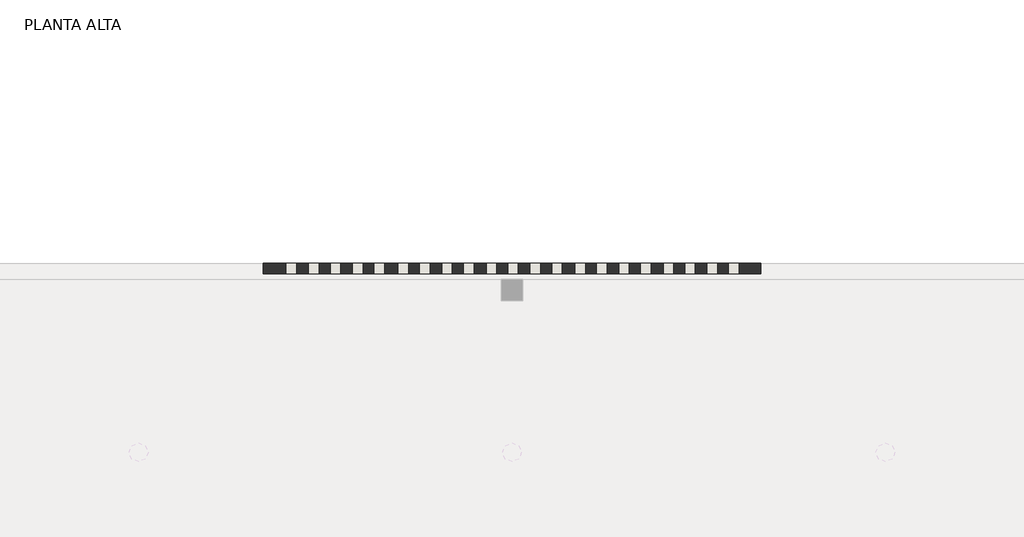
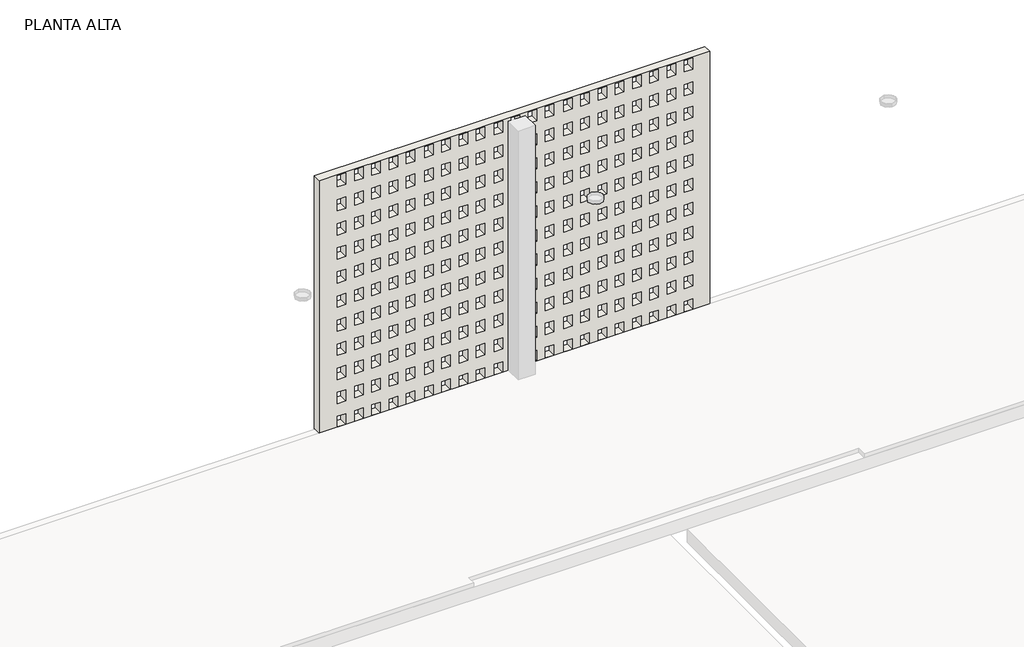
# One storey, part 3 of 14: 1 wall.
"""IFC4 building model written with IfcOpenShell, lengths in millimetres."""

from ifc_helpers import new_model, si_unit, frame, origin, place, context, project, spatial, polyline, outline, extrude, element, save

model = new_model("IFC4")

# Units and contexts
model_context = context("Model", 3, world=origin())
ifc_project = project(units=[si_unit("LENGTHUNIT", "METRE", prefix="MILLI")], contexts=[model_context])

# Site, building, storey
site = spatial("IfcSite", under=ifc_project)
building = spatial("IfcBuilding", under=site)
storey = spatial("IfcBuildingStorey", under=building, Name="PLANTA ALTA", Elevation=3310.0)

# Wall
placement = place(None, origin())
element("IfcWall", 1, ObjectType="MURO-Ladrillo hormigón calado-10cm-PET", at=placement, inside=storey, context=model_context, shape_type="SweptSolid", body=[
    extrude(outline(polyline([(3260.0, 19388.7173694), (6410.0, 19388.7173694), (6410.0, 14788.7173693), (3260.0, 14788.7173693), (3260.0, 19388.7173694)]), holes=[polyline([(6400.0, 19088.7173693), (6400.0, 19188.7173695), (6260.0, 19188.7173695), (6260.0, 19088.7173693), (6400.0, 19088.7173693)]), polyline([(6400.0, 18888.717369), (6400.0, 18988.7173693), (6260.0, 18988.7173693), (6260.0, 18888.717369), (6400.0, 18888.717369)]), polyline([(6400.0, 18683.717369), (6400.0, 18783.7173693), (6260.0, 18783.7173693), (6260.0, 18683.717369), (6400.0, 18683.717369)]), polyline([(6400.0, 18483.7173688), (6400.0, 18583.717369), (6260.0, 18583.717369), (6260.0, 18483.7173688), (6400.0, 18483.7173688)]), polyline([(6400.0, 18273.717369), (6400.0, 18373.7173693), (6260.0, 18373.7173693), (6260.0, 18273.717369), (6400.0, 18273.717369)]), polyline([(6400.0, 18073.7173688), (6400.0, 18173.717369), (6260.0, 18173.717369), (6260.0, 18073.7173688), (6400.0, 18073.7173688)]), polyline([(6400.0, 17868.7173688), (6400.0, 17968.7173691), (6260.0, 17968.7173691), (6260.0, 17868.7173688), (6400.0, 17868.7173688)]), polyline([(6400.0, 17668.7173686), (6400.0, 17768.7173688), (6260.0, 17768.7173688), (6260.0, 17668.7173686), (6400.0, 17668.7173686)]), polyline([(6400.0, 17453.7173691), (6400.0, 17553.7173693), (6260.0, 17553.7173693), (6260.0, 17453.7173691), (6400.0, 17453.7173691)]), polyline([(6400.0, 17253.7173688), (6400.0, 17353.7173691), (6260.0, 17353.7173691), (6260.0, 17253.7173688), (6400.0, 17253.7173688)]), polyline([(6400.0, 17048.7173688), (6400.0, 17148.7173691), (6260.0, 17148.7173691), (6260.0, 17048.7173688), (6400.0, 17048.7173688)]), polyline([(6400.0, 16848.7173686), (6400.0, 16948.7173689), (6260.0, 16948.7173689), (6260.0, 16848.7173686), (6400.0, 16848.7173686)]), polyline([(6400.0, 16638.7173689), (6400.0, 16738.7173691), (6260.0, 16738.7173691), (6260.0, 16638.7173689), (6400.0, 16638.7173689)]), polyline([(6400.0, 16438.7173686), (6400.0, 16538.7173689), (6260.0, 16538.7173689), (6260.0, 16438.7173686), (6400.0, 16438.7173686)]), polyline([(6400.0, 16233.7173686), (6400.0, 16333.7173689), (6260.0, 16333.7173689), (6260.0, 16233.7173686), (6400.0, 16233.7173686)]), polyline([(6400.0, 16033.7173684), (6400.0, 16133.7173686), (6260.0, 16133.7173686), (6260.0, 16033.7173684), (6400.0, 16033.7173684)]), polyline([(6400.0, 15813.7173691), (6400.0, 15913.7173693), (6260.0, 15913.7173693), (6260.0, 15813.7173691), (6400.0, 15813.7173691)]), polyline([(6400.0, 15613.7173689), (6400.0, 15713.7173691), (6260.0, 15713.7173691), (6260.0, 15613.7173689), (6400.0, 15613.7173689)]), polyline([(6400.0, 15408.7173689), (6400.0, 15508.7173691), (6260.0, 15508.7173691), (6260.0, 15408.7173689), (6400.0, 15408.7173689)]), polyline([(6400.0, 15208.7173687), (6400.0, 15308.7173689), (6260.0, 15308.7173689), (6260.0, 15208.7173687), (6400.0, 15208.7173687)]), polyline([(6400.0, 14998.7173689), (6400.0, 15098.7173691), (6260.0, 15098.7173691), (6260.0, 14998.7173689), (6400.0, 14998.7173689)]), polyline([(6100.0, 19088.7173693), (6100.0, 19188.7173695), (5960.0, 19188.7173695), (5960.0, 19088.7173693), (6100.0, 19088.7173693)]), polyline([(6100.0, 18888.717369), (6100.0, 18988.7173693), (5960.0, 18988.7173693), (5960.0, 18888.717369), (6100.0, 18888.717369)]), polyline([(6100.0, 18683.717369), (6100.0, 18783.7173693), (5960.0, 18783.7173693), (5960.0, 18683.717369), (6100.0, 18683.717369)]), polyline([(6100.0, 18483.7173688), (6100.0, 18583.717369), (5960.0, 18583.717369), (5960.0, 18483.7173688), (6100.0, 18483.7173688)]), polyline([(6100.0, 18273.717369), (6100.0, 18373.7173693), (5960.0, 18373.7173693), (5960.0, 18273.717369), (6100.0, 18273.717369)]), polyline([(6100.0, 18073.7173688), (6100.0, 18173.717369), (5960.0, 18173.717369), (5960.0, 18073.7173688), (6100.0, 18073.7173688)]), polyline([(6100.0, 17868.7173688), (6100.0, 17968.7173691), (5960.0, 17968.7173691), (5960.0, 17868.7173688), (6100.0, 17868.7173688)]), polyline([(6100.0, 17668.7173686), (6100.0, 17768.7173688), (5960.0, 17768.7173688), (5960.0, 17668.7173686), (6100.0, 17668.7173686)]), polyline([(6100.0, 17453.7173691), (6100.0, 17553.7173693), (5960.0, 17553.7173693), (5960.0, 17453.7173691), (6100.0, 17453.7173691)]), polyline([(6100.0, 17253.7173688), (6100.0, 17353.7173691), (5960.0, 17353.7173691), (5960.0, 17253.7173688), (6100.0, 17253.7173688)]), polyline([(6100.0, 17048.7173688), (6100.0, 17148.7173691), (5960.0, 17148.7173691), (5960.0, 17048.7173688), (6100.0, 17048.7173688)]), polyline([(6100.0, 16848.7173686), (6100.0, 16948.7173689), (5960.0, 16948.7173689), (5960.0, 16848.7173686), (6100.0, 16848.7173686)]), polyline([(6100.0, 16638.7173689), (6100.0, 16738.7173691), (5960.0, 16738.7173691), (5960.0, 16638.7173689), (6100.0, 16638.7173689)]), polyline([(6100.0, 16438.7173686), (6100.0, 16538.7173689), (5960.0, 16538.7173689), (5960.0, 16438.7173686), (6100.0, 16438.7173686)]), polyline([(6100.0, 16233.7173686), (6100.0, 16333.7173689), (5960.0, 16333.7173689), (5960.0, 16233.7173686), (6100.0, 16233.7173686)]), polyline([(6100.0, 16033.7173684), (6100.0, 16133.7173686), (5960.0, 16133.7173686), (5960.0, 16033.7173684), (6100.0, 16033.7173684)]), polyline([(6100.0, 15813.7173691), (6100.0, 15913.7173693), (5960.0, 15913.7173693), (5960.0, 15813.7173691), (6100.0, 15813.7173691)]), polyline([(6100.0, 15613.7173689), (6100.0, 15713.7173691), (5960.0, 15713.7173691), (5960.0, 15613.7173689), (6100.0, 15613.7173689)]), polyline([(6100.0, 15408.7173689), (6100.0, 15508.7173691), (5960.0, 15508.7173691), (5960.0, 15408.7173689), (6100.0, 15408.7173689)]), polyline([(6100.0, 15208.7173687), (6100.0, 15308.7173689), (5960.0, 15308.7173689), (5960.0, 15208.7173687), (6100.0, 15208.7173687)]), polyline([(6100.0, 14998.7173689), (6100.0, 15098.7173691), (5960.0, 15098.7173691), (5960.0, 14998.7173689), (6100.0, 14998.7173689)]), polyline([(5800.0, 19088.7173693), (5800.0, 19188.7173695), (5660.0, 19188.7173695), (5660.0, 19088.7173693), (5800.0, 19088.7173693)]), polyline([(5800.0, 18888.717369), (5800.0, 18988.7173693), (5660.0, 18988.7173693), (5660.0, 18888.717369), (5800.0, 18888.717369)]), polyline([(5800.0, 18683.717369), (5800.0, 18783.7173693), (5660.0, 18783.7173693), (5660.0, 18683.717369), (5800.0, 18683.717369)]), polyline([(5800.0, 18483.7173688), (5800.0, 18583.717369), (5660.0, 18583.717369), (5660.0, 18483.7173688), (5800.0, 18483.7173688)]), polyline([(5800.0, 18273.717369), (5800.0, 18373.7173693), (5660.0, 18373.7173693), (5660.0, 18273.717369), (5800.0, 18273.717369)]), polyline([(5800.0, 18073.7173688), (5800.0, 18173.717369), (5660.0, 18173.717369), (5660.0, 18073.7173688), (5800.0, 18073.7173688)]), polyline([(5800.0, 17868.7173688), (5800.0, 17968.7173691), (5660.0, 17968.7173691), (5660.0, 17868.7173688), (5800.0, 17868.7173688)]), polyline([(5800.0, 17668.7173686), (5800.0, 17768.7173688), (5660.0, 17768.7173688), (5660.0, 17668.7173686), (5800.0, 17668.7173686)]), polyline([(5800.0, 17453.7173691), (5800.0, 17553.7173693), (5660.0, 17553.7173693), (5660.0, 17453.7173691), (5800.0, 17453.7173691)]), polyline([(5800.0, 17253.7173688), (5800.0, 17353.7173691), (5660.0, 17353.7173691), (5660.0, 17253.7173688), (5800.0, 17253.7173688)]), polyline([(5800.0, 17048.7173688), (5800.0, 17148.7173691), (5660.0, 17148.7173691), (5660.0, 17048.7173688), (5800.0, 17048.7173688)]), polyline([(5800.0, 16848.7173686), (5800.0, 16948.7173689), (5660.0, 16948.7173689), (5660.0, 16848.7173686), (5800.0, 16848.7173686)]), polyline([(5800.0, 16638.7173689), (5800.0, 16738.7173691), (5660.0, 16738.7173691), (5660.0, 16638.7173689), (5800.0, 16638.7173689)]), polyline([(5800.0, 16438.7173686), (5800.0, 16538.7173689), (5660.0, 16538.7173689), (5660.0, 16438.7173686), (5800.0, 16438.7173686)]), polyline([(5800.0, 16233.7173686), (5800.0, 16333.7173689), (5660.0, 16333.7173689), (5660.0, 16233.7173686), (5800.0, 16233.7173686)]), polyline([(5800.0, 16033.7173684), (5800.0, 16133.7173686), (5660.0, 16133.7173686), (5660.0, 16033.7173684), (5800.0, 16033.7173684)]), polyline([(5800.0, 15813.7173691), (5800.0, 15913.7173693), (5660.0, 15913.7173693), (5660.0, 15813.7173691), (5800.0, 15813.7173691)]), polyline([(5800.0, 15613.7173689), (5800.0, 15713.7173691), (5660.0, 15713.7173691), (5660.0, 15613.7173689), (5800.0, 15613.7173689)]), polyline([(5800.0, 15408.7173689), (5800.0, 15508.7173691), (5660.0, 15508.7173691), (5660.0, 15408.7173689), (5800.0, 15408.7173689)]), polyline([(5800.0, 15208.7173687), (5800.0, 15308.7173689), (5660.0, 15308.7173689), (5660.0, 15208.7173687), (5800.0, 15208.7173687)]), polyline([(5800.0, 14998.7173689), (5800.0, 15098.7173691), (5660.0, 15098.7173691), (5660.0, 14998.7173689), (5800.0, 14998.7173689)]), polyline([(5500.0, 19088.7173693), (5500.0, 19188.7173695), (5360.0, 19188.7173695), (5360.0, 19088.7173693), (5500.0, 19088.7173693)]), polyline([(5500.0, 18888.717369), (5500.0, 18988.7173693), (5360.0, 18988.7173693), (5360.0, 18888.717369), (5500.0, 18888.717369)]), polyline([(5500.0, 18683.717369), (5500.0, 18783.7173693), (5360.0, 18783.7173693), (5360.0, 18683.717369), (5500.0, 18683.717369)]), polyline([(5500.0, 18483.7173688), (5500.0, 18583.717369), (5360.0, 18583.717369), (5360.0, 18483.7173688), (5500.0, 18483.7173688)]), polyline([(5500.0, 18273.717369), (5500.0, 18373.7173693), (5360.0, 18373.7173693), (5360.0, 18273.717369), (5500.0, 18273.717369)]), polyline([(5500.0, 18073.7173688), (5500.0, 18173.717369), (5360.0, 18173.717369), (5360.0, 18073.7173688), (5500.0, 18073.7173688)]), polyline([(5500.0, 17868.7173688), (5500.0, 17968.7173691), (5360.0, 17968.7173691), (5360.0, 17868.7173688), (5500.0, 17868.7173688)]), polyline([(5500.0, 17668.7173686), (5500.0, 17768.7173688), (5360.0, 17768.7173688), (5360.0, 17668.7173686), (5500.0, 17668.7173686)]), polyline([(5500.0, 17453.7173691), (5500.0, 17553.7173693), (5360.0, 17553.7173693), (5360.0, 17453.7173691), (5500.0, 17453.7173691)]), polyline([(5500.0, 17253.7173688), (5500.0, 17353.7173691), (5360.0, 17353.7173691), (5360.0, 17253.7173688), (5500.0, 17253.7173688)]), polyline([(5500.0, 17048.7173688), (5500.0, 17148.7173691), (5360.0, 17148.7173691), (5360.0, 17048.7173688), (5500.0, 17048.7173688)]), polyline([(5500.0, 16848.7173686), (5500.0, 16948.7173689), (5360.0, 16948.7173689), (5360.0, 16848.7173686), (5500.0, 16848.7173686)]), polyline([(5500.0, 16638.7173689), (5500.0, 16738.7173691), (5360.0, 16738.7173691), (5360.0, 16638.7173689), (5500.0, 16638.7173689)]), polyline([(5500.0, 16438.7173686), (5500.0, 16538.7173689), (5360.0, 16538.7173689), (5360.0, 16438.7173686), (5500.0, 16438.7173686)]), polyline([(5500.0, 16233.7173686), (5500.0, 16333.7173689), (5360.0, 16333.7173689), (5360.0, 16233.7173686), (5500.0, 16233.7173686)]), polyline([(5500.0, 16033.7173684), (5500.0, 16133.7173686), (5360.0, 16133.7173686), (5360.0, 16033.7173684), (5500.0, 16033.7173684)]), polyline([(5500.0, 15813.7173691), (5500.0, 15913.7173693), (5360.0, 15913.7173693), (5360.0, 15813.7173691), (5500.0, 15813.7173691)]), polyline([(5500.0, 15613.7173689), (5500.0, 15713.7173691), (5360.0, 15713.7173691), (5360.0, 15613.7173689), (5500.0, 15613.7173689)]), polyline([(5500.0, 15408.7173689), (5500.0, 15508.7173691), (5360.0, 15508.7173691), (5360.0, 15408.7173689), (5500.0, 15408.7173689)]), polyline([(5500.0, 15208.7173687), (5500.0, 15308.7173689), (5360.0, 15308.7173689), (5360.0, 15208.7173687), (5500.0, 15208.7173687)]), polyline([(5500.0, 14998.7173689), (5500.0, 15098.7173691), (5360.0, 15098.7173691), (5360.0, 14998.7173689), (5500.0, 14998.7173689)]), polyline([(5200.0, 19088.7173693), (5200.0, 19188.7173695), (5060.0, 19188.7173695), (5060.0, 19088.7173693), (5200.0, 19088.7173693)]), polyline([(5200.0, 18888.717369), (5200.0, 18988.7173693), (5060.0, 18988.7173693), (5060.0, 18888.717369), (5200.0, 18888.717369)]), polyline([(5200.0, 18683.717369), (5200.0, 18783.7173693), (5060.0, 18783.7173693), (5060.0, 18683.717369), (5200.0, 18683.717369)]), polyline([(5200.0, 18483.7173688), (5200.0, 18583.717369), (5060.0, 18583.717369), (5060.0, 18483.7173688), (5200.0, 18483.7173688)]), polyline([(5200.0, 18273.717369), (5200.0, 18373.7173693), (5060.0, 18373.7173693), (5060.0, 18273.717369), (5200.0, 18273.717369)]), polyline([(5200.0, 18073.7173688), (5200.0, 18173.717369), (5060.0, 18173.717369), (5060.0, 18073.7173688), (5200.0, 18073.7173688)]), polyline([(5200.0, 17868.7173688), (5200.0, 17968.7173691), (5060.0, 17968.7173691), (5060.0, 17868.7173688), (5200.0, 17868.7173688)]), polyline([(5200.0, 17668.7173686), (5200.0, 17768.7173688), (5060.0, 17768.7173688), (5060.0, 17668.7173686), (5200.0, 17668.7173686)]), polyline([(5200.0, 17453.7173691), (5200.0, 17553.7173693), (5060.0, 17553.7173693), (5060.0, 17453.7173691), (5200.0, 17453.7173691)]), polyline([(5200.0, 17253.7173688), (5200.0, 17353.7173691), (5060.0, 17353.7173691), (5060.0, 17253.7173688), (5200.0, 17253.7173688)]), polyline([(5200.0, 17048.7173688), (5200.0, 17148.7173691), (5060.0, 17148.7173691), (5060.0, 17048.7173688), (5200.0, 17048.7173688)]), polyline([(5200.0, 16848.7173686), (5200.0, 16948.7173689), (5060.0, 16948.7173689), (5060.0, 16848.7173686), (5200.0, 16848.7173686)]), polyline([(5200.0, 16638.7173689), (5200.0, 16738.7173691), (5060.0, 16738.7173691), (5060.0, 16638.7173689), (5200.0, 16638.7173689)]), polyline([(5200.0, 16438.7173686), (5200.0, 16538.7173689), (5060.0, 16538.7173689), (5060.0, 16438.7173686), (5200.0, 16438.7173686)]), polyline([(5200.0, 16233.7173686), (5200.0, 16333.7173689), (5060.0, 16333.7173689), (5060.0, 16233.7173686), (5200.0, 16233.7173686)]), polyline([(5200.0, 16033.7173684), (5200.0, 16133.7173686), (5060.0, 16133.7173686), (5060.0, 16033.7173684), (5200.0, 16033.7173684)]), polyline([(5200.0, 15813.7173691), (5200.0, 15913.7173693), (5060.0, 15913.7173693), (5060.0, 15813.7173691), (5200.0, 15813.7173691)]), polyline([(5200.0, 15613.7173689), (5200.0, 15713.7173691), (5060.0, 15713.7173691), (5060.0, 15613.7173689), (5200.0, 15613.7173689)]), polyline([(5200.0, 15408.7173689), (5200.0, 15508.7173691), (5060.0, 15508.7173691), (5060.0, 15408.7173689), (5200.0, 15408.7173689)]), polyline([(5200.0, 15208.7173687), (5200.0, 15308.7173689), (5060.0, 15308.7173689), (5060.0, 15208.7173687), (5200.0, 15208.7173687)]), polyline([(5200.0, 14998.7173689), (5200.0, 15098.7173691), (5060.0, 15098.7173691), (5060.0, 14998.7173689), (5200.0, 14998.7173689)]), polyline([(4900.0, 19088.7173693), (4900.0, 19188.7173695), (4760.0, 19188.7173695), (4760.0, 19088.7173693), (4900.0, 19088.7173693)]), polyline([(4900.0, 18888.717369), (4900.0, 18988.7173693), (4760.0, 18988.7173693), (4760.0, 18888.717369), (4900.0, 18888.717369)]), polyline([(4900.0, 18683.717369), (4900.0, 18783.7173693), (4760.0, 18783.7173693), (4760.0, 18683.717369), (4900.0, 18683.717369)]), polyline([(4900.0, 18483.7173688), (4900.0, 18583.717369), (4760.0, 18583.717369), (4760.0, 18483.7173688), (4900.0, 18483.7173688)]), polyline([(4900.0, 18273.717369), (4900.0, 18373.7173693), (4760.0, 18373.7173693), (4760.0, 18273.717369), (4900.0, 18273.717369)]), polyline([(4900.0, 18073.7173688), (4900.0, 18173.717369), (4760.0, 18173.717369), (4760.0, 18073.7173688), (4900.0, 18073.7173688)]), polyline([(4900.0, 17868.7173688), (4900.0, 17968.7173691), (4760.0, 17968.7173691), (4760.0, 17868.7173688), (4900.0, 17868.7173688)]), polyline([(4900.0, 17668.7173686), (4900.0, 17768.7173688), (4760.0, 17768.7173688), (4760.0, 17668.7173686), (4900.0, 17668.7173686)]), polyline([(4900.0, 17453.7173691), (4900.0, 17553.7173693), (4760.0, 17553.7173693), (4760.0, 17453.7173691), (4900.0, 17453.7173691)]), polyline([(4900.0, 17253.7173688), (4900.0, 17353.7173691), (4760.0, 17353.7173691), (4760.0, 17253.7173688), (4900.0, 17253.7173688)]), polyline([(4900.0, 17048.7173688), (4900.0, 17148.7173691), (4760.0, 17148.7173691), (4760.0, 17048.7173688), (4900.0, 17048.7173688)]), polyline([(4900.0, 16848.7173686), (4900.0, 16948.7173689), (4760.0, 16948.7173689), (4760.0, 16848.7173686), (4900.0, 16848.7173686)]), polyline([(4900.0, 16638.7173689), (4900.0, 16738.7173691), (4760.0, 16738.7173691), (4760.0, 16638.7173689), (4900.0, 16638.7173689)]), polyline([(4900.0, 16438.7173686), (4900.0, 16538.7173689), (4760.0, 16538.7173689), (4760.0, 16438.7173686), (4900.0, 16438.7173686)]), polyline([(4900.0, 16233.7173686), (4900.0, 16333.7173689), (4760.0, 16333.7173689), (4760.0, 16233.7173686), (4900.0, 16233.7173686)]), polyline([(4900.0, 16033.7173684), (4900.0, 16133.7173686), (4760.0, 16133.7173686), (4760.0, 16033.7173684), (4900.0, 16033.7173684)]), polyline([(4900.0, 15813.7173691), (4900.0, 15913.7173693), (4760.0, 15913.7173693), (4760.0, 15813.7173691), (4900.0, 15813.7173691)]), polyline([(4900.0, 15613.7173689), (4900.0, 15713.7173691), (4760.0, 15713.7173691), (4760.0, 15613.7173689), (4900.0, 15613.7173689)]), polyline([(4900.0, 15408.7173689), (4900.0, 15508.7173691), (4760.0, 15508.7173691), (4760.0, 15408.7173689), (4900.0, 15408.7173689)]), polyline([(4900.0, 15208.7173687), (4900.0, 15308.7173689), (4760.0, 15308.7173689), (4760.0, 15208.7173687), (4900.0, 15208.7173687)]), polyline([(4900.0, 14998.7173689), (4900.0, 15098.7173691), (4760.0, 15098.7173691), (4760.0, 14998.7173689), (4900.0, 14998.7173689)]), polyline([(4600.0, 19088.7173693), (4600.0, 19188.7173695), (4460.0, 19188.7173695), (4460.0, 19088.7173693), (4600.0, 19088.7173693)]), polyline([(4600.0, 18888.717369), (4600.0, 18988.7173693), (4460.0, 18988.7173693), (4460.0, 18888.717369), (4600.0, 18888.717369)]), polyline([(4600.0, 18683.717369), (4600.0, 18783.7173693), (4460.0, 18783.7173693), (4460.0, 18683.717369), (4600.0, 18683.717369)]), polyline([(4600.0, 18483.7173688), (4600.0, 18583.717369), (4460.0, 18583.717369), (4460.0, 18483.7173688), (4600.0, 18483.7173688)]), polyline([(4600.0, 18273.717369), (4600.0, 18373.7173693), (4460.0, 18373.7173693), (4460.0, 18273.717369), (4600.0, 18273.717369)]), polyline([(4600.0, 18073.7173688), (4600.0, 18173.717369), (4460.0, 18173.717369), (4460.0, 18073.7173688), (4600.0, 18073.7173688)]), polyline([(4600.0, 17868.7173688), (4600.0, 17968.7173691), (4460.0, 17968.7173691), (4460.0, 17868.7173688), (4600.0, 17868.7173688)]), polyline([(4600.0, 17668.7173686), (4600.0, 17768.7173688), (4460.0, 17768.7173688), (4460.0, 17668.7173686), (4600.0, 17668.7173686)]), polyline([(4600.0, 17453.7173691), (4600.0, 17553.7173693), (4460.0, 17553.7173693), (4460.0, 17453.7173691), (4600.0, 17453.7173691)]), polyline([(4600.0, 17253.7173688), (4600.0, 17353.7173691), (4460.0, 17353.7173691), (4460.0, 17253.7173688), (4600.0, 17253.7173688)]), polyline([(4600.0, 17048.7173688), (4600.0, 17148.7173691), (4460.0, 17148.7173691), (4460.0, 17048.7173688), (4600.0, 17048.7173688)]), polyline([(4600.0, 16848.7173686), (4600.0, 16948.7173689), (4460.0, 16948.7173689), (4460.0, 16848.7173686), (4600.0, 16848.7173686)]), polyline([(4600.0, 16638.7173689), (4600.0, 16738.7173691), (4460.0, 16738.7173691), (4460.0, 16638.7173689), (4600.0, 16638.7173689)]), polyline([(4600.0, 16438.7173686), (4600.0, 16538.7173689), (4460.0, 16538.7173689), (4460.0, 16438.7173686), (4600.0, 16438.7173686)]), polyline([(4600.0, 16233.7173686), (4600.0, 16333.7173689), (4460.0, 16333.7173689), (4460.0, 16233.7173686), (4600.0, 16233.7173686)]), polyline([(4600.0, 16033.7173684), (4600.0, 16133.7173686), (4460.0, 16133.7173686), (4460.0, 16033.7173684), (4600.0, 16033.7173684)]), polyline([(4600.0, 15813.7173691), (4600.0, 15913.7173693), (4460.0, 15913.7173693), (4460.0, 15813.7173691), (4600.0, 15813.7173691)]), polyline([(4600.0, 15613.7173689), (4600.0, 15713.7173691), (4460.0, 15713.7173691), (4460.0, 15613.7173689), (4600.0, 15613.7173689)]), polyline([(4600.0, 15408.7173689), (4600.0, 15508.7173691), (4460.0, 15508.7173691), (4460.0, 15408.7173689), (4600.0, 15408.7173689)]), polyline([(4600.0, 15208.7173687), (4600.0, 15308.7173689), (4460.0, 15308.7173689), (4460.0, 15208.7173687), (4600.0, 15208.7173687)]), polyline([(4600.0, 14998.7173689), (4600.0, 15098.7173691), (4460.0, 15098.7173691), (4460.0, 14998.7173689), (4600.0, 14998.7173689)]), polyline([(4300.0, 19088.7173693), (4300.0, 19188.7173695), (4160.0, 19188.7173695), (4160.0, 19088.7173693), (4300.0, 19088.7173693)]), polyline([(4300.0, 18888.717369), (4300.0, 18988.7173693), (4160.0, 18988.7173693), (4160.0, 18888.717369), (4300.0, 18888.717369)]), polyline([(4300.0, 18683.717369), (4300.0, 18783.7173693), (4160.0, 18783.7173693), (4160.0, 18683.717369), (4300.0, 18683.717369)]), polyline([(4300.0, 18483.7173688), (4300.0, 18583.717369), (4160.0, 18583.717369), (4160.0, 18483.7173688), (4300.0, 18483.7173688)]), polyline([(4300.0, 18273.717369), (4300.0, 18373.7173693), (4160.0, 18373.7173693), (4160.0, 18273.717369), (4300.0, 18273.717369)]), polyline([(4300.0, 18073.7173688), (4300.0, 18173.717369), (4160.0, 18173.717369), (4160.0, 18073.7173688), (4300.0, 18073.7173688)]), polyline([(4300.0, 17868.7173688), (4300.0, 17968.7173691), (4160.0, 17968.7173691), (4160.0, 17868.7173688), (4300.0, 17868.7173688)]), polyline([(4300.0, 17668.7173686), (4300.0, 17768.7173688), (4160.0, 17768.7173688), (4160.0, 17668.7173686), (4300.0, 17668.7173686)]), polyline([(4300.0, 17453.7173691), (4300.0, 17553.7173693), (4160.0, 17553.7173693), (4160.0, 17453.7173691), (4300.0, 17453.7173691)]), polyline([(4300.0, 17253.7173688), (4300.0, 17353.7173691), (4160.0, 17353.7173691), (4160.0, 17253.7173688), (4300.0, 17253.7173688)]), polyline([(4300.0, 17048.7173688), (4300.0, 17148.7173691), (4160.0, 17148.7173691), (4160.0, 17048.7173688), (4300.0, 17048.7173688)]), polyline([(4300.0, 16848.7173686), (4300.0, 16948.7173689), (4160.0, 16948.7173689), (4160.0, 16848.7173686), (4300.0, 16848.7173686)]), polyline([(4300.0, 16638.7173689), (4300.0, 16738.7173691), (4160.0, 16738.7173691), (4160.0, 16638.7173689), (4300.0, 16638.7173689)]), polyline([(4300.0, 16438.7173686), (4300.0, 16538.7173689), (4160.0, 16538.7173689), (4160.0, 16438.7173686), (4300.0, 16438.7173686)]), polyline([(4300.0, 16233.7173686), (4300.0, 16333.7173689), (4160.0, 16333.7173689), (4160.0, 16233.7173686), (4300.0, 16233.7173686)]), polyline([(4300.0, 16033.7173684), (4300.0, 16133.7173686), (4160.0, 16133.7173686), (4160.0, 16033.7173684), (4300.0, 16033.7173684)]), polyline([(4300.0, 15813.7173691), (4300.0, 15913.7173693), (4160.0, 15913.7173693), (4160.0, 15813.7173691), (4300.0, 15813.7173691)]), polyline([(4300.0, 15613.7173689), (4300.0, 15713.7173691), (4160.0, 15713.7173691), (4160.0, 15613.7173689), (4300.0, 15613.7173689)]), polyline([(4300.0, 15408.7173689), (4300.0, 15508.7173691), (4160.0, 15508.7173691), (4160.0, 15408.7173689), (4300.0, 15408.7173689)]), polyline([(4300.0, 15208.7173687), (4300.0, 15308.7173689), (4160.0, 15308.7173689), (4160.0, 15208.7173687), (4300.0, 15208.7173687)]), polyline([(4300.0, 14998.7173689), (4300.0, 15098.7173691), (4160.0, 15098.7173691), (4160.0, 14998.7173689), (4300.0, 14998.7173689)]), polyline([(4000.0, 19088.7173693), (4000.0, 19188.7173695), (3860.0, 19188.7173695), (3860.0, 19088.7173693), (4000.0, 19088.7173693)]), polyline([(4000.0, 18888.717369), (4000.0, 18988.7173693), (3860.0, 18988.7173693), (3860.0, 18888.717369), (4000.0, 18888.717369)]), polyline([(4000.0, 18683.717369), (4000.0, 18783.7173693), (3860.0, 18783.7173693), (3860.0, 18683.717369), (4000.0, 18683.717369)]), polyline([(4000.0, 18483.7173688), (4000.0, 18583.717369), (3860.0, 18583.717369), (3860.0, 18483.7173688), (4000.0, 18483.7173688)]), polyline([(4000.0, 18273.717369), (4000.0, 18373.7173693), (3860.0, 18373.7173693), (3860.0, 18273.717369), (4000.0, 18273.717369)]), polyline([(4000.0, 18073.7173688), (4000.0, 18173.717369), (3860.0, 18173.717369), (3860.0, 18073.7173688), (4000.0, 18073.7173688)]), polyline([(4000.0, 17868.7173688), (4000.0, 17968.7173691), (3860.0, 17968.7173691), (3860.0, 17868.7173688), (4000.0, 17868.7173688)]), polyline([(4000.0, 17668.7173686), (4000.0, 17768.7173688), (3860.0, 17768.7173688), (3860.0, 17668.7173686), (4000.0, 17668.7173686)]), polyline([(4000.0, 17453.7173691), (4000.0, 17553.7173693), (3860.0, 17553.7173693), (3860.0, 17453.7173691), (4000.0, 17453.7173691)]), polyline([(4000.0, 17253.7173688), (4000.0, 17353.7173691), (3860.0, 17353.7173691), (3860.0, 17253.7173688), (4000.0, 17253.7173688)]), polyline([(4000.0, 17048.7173688), (4000.0, 17148.7173691), (3860.0, 17148.7173691), (3860.0, 17048.7173688), (4000.0, 17048.7173688)]), polyline([(4000.0, 16848.7173686), (4000.0, 16948.7173689), (3860.0, 16948.7173689), (3860.0, 16848.7173686), (4000.0, 16848.7173686)]), polyline([(4000.0, 16638.7173689), (4000.0, 16738.7173691), (3860.0, 16738.7173691), (3860.0, 16638.7173689), (4000.0, 16638.7173689)]), polyline([(4000.0, 16438.7173686), (4000.0, 16538.7173689), (3860.0, 16538.7173689), (3860.0, 16438.7173686), (4000.0, 16438.7173686)]), polyline([(4000.0, 16233.7173686), (4000.0, 16333.7173689), (3860.0, 16333.7173689), (3860.0, 16233.7173686), (4000.0, 16233.7173686)]), polyline([(4000.0, 16033.7173684), (4000.0, 16133.7173686), (3860.0, 16133.7173686), (3860.0, 16033.7173684), (4000.0, 16033.7173684)]), polyline([(4000.0, 15813.7173691), (4000.0, 15913.7173693), (3860.0, 15913.7173693), (3860.0, 15813.7173691), (4000.0, 15813.7173691)]), polyline([(4000.0, 15613.7173689), (4000.0, 15713.7173691), (3860.0, 15713.7173691), (3860.0, 15613.7173689), (4000.0, 15613.7173689)]), polyline([(4000.0, 15408.7173689), (4000.0, 15508.7173691), (3860.0, 15508.7173691), (3860.0, 15408.7173689), (4000.0, 15408.7173689)]), polyline([(4000.0, 15208.7173687), (4000.0, 15308.7173689), (3860.0, 15308.7173689), (3860.0, 15208.7173687), (4000.0, 15208.7173687)]), polyline([(4000.0, 14998.7173689), (4000.0, 15098.7173691), (3860.0, 15098.7173691), (3860.0, 14998.7173689), (4000.0, 14998.7173689)]), polyline([(3700.0, 19088.7173693), (3700.0, 19188.7173695), (3560.0, 19188.7173695), (3560.0, 19088.7173693), (3700.0, 19088.7173693)]), polyline([(3700.0, 18888.717369), (3700.0, 18988.7173693), (3560.0, 18988.7173693), (3560.0, 18888.717369), (3700.0, 18888.717369)]), polyline([(3700.0, 18683.717369), (3700.0, 18783.7173693), (3560.0, 18783.7173693), (3560.0, 18683.717369), (3700.0, 18683.717369)]), polyline([(3700.0, 18483.7173688), (3700.0, 18583.717369), (3560.0, 18583.717369), (3560.0, 18483.7173688), (3700.0, 18483.7173688)]), polyline([(3700.0, 18273.717369), (3700.0, 18373.7173693), (3560.0, 18373.7173693), (3560.0, 18273.717369), (3700.0, 18273.717369)]), polyline([(3700.0, 18073.7173688), (3700.0, 18173.717369), (3560.0, 18173.717369), (3560.0, 18073.7173688), (3700.0, 18073.7173688)]), polyline([(3700.0, 17868.7173688), (3700.0, 17968.7173691), (3560.0, 17968.7173691), (3560.0, 17868.7173688), (3700.0, 17868.7173688)]), polyline([(3700.0, 17668.7173686), (3700.0, 17768.7173688), (3560.0, 17768.7173688), (3560.0, 17668.7173686), (3700.0, 17668.7173686)]), polyline([(3700.0, 17453.7173691), (3700.0, 17553.7173693), (3560.0, 17553.7173693), (3560.0, 17453.7173691), (3700.0, 17453.7173691)]), polyline([(3700.0, 17253.7173688), (3700.0, 17353.7173691), (3560.0, 17353.7173691), (3560.0, 17253.7173688), (3700.0, 17253.7173688)]), polyline([(3700.0, 17048.7173688), (3700.0, 17148.7173691), (3560.0, 17148.7173691), (3560.0, 17048.7173688), (3700.0, 17048.7173688)]), polyline([(3700.0, 16848.7173686), (3700.0, 16948.7173689), (3560.0, 16948.7173689), (3560.0, 16848.7173686), (3700.0, 16848.7173686)]), polyline([(3700.0, 16638.7173689), (3700.0, 16738.7173691), (3560.0, 16738.7173691), (3560.0, 16638.7173689), (3700.0, 16638.7173689)]), polyline([(3700.0, 16438.7173686), (3700.0, 16538.7173689), (3560.0, 16538.7173689), (3560.0, 16438.7173686), (3700.0, 16438.7173686)]), polyline([(3700.0, 16233.7173686), (3700.0, 16333.7173689), (3560.0, 16333.7173689), (3560.0, 16233.7173686), (3700.0, 16233.7173686)]), polyline([(3700.0, 16033.7173684), (3700.0, 16133.7173686), (3560.0, 16133.7173686), (3560.0, 16033.7173684), (3700.0, 16033.7173684)]), polyline([(3700.0, 15813.7173691), (3700.0, 15913.7173693), (3560.0, 15913.7173693), (3560.0, 15813.7173691), (3700.0, 15813.7173691)]), polyline([(3700.0, 15613.7173689), (3700.0, 15713.7173691), (3560.0, 15713.7173691), (3560.0, 15613.7173689), (3700.0, 15613.7173689)]), polyline([(3700.0, 15408.7173689), (3700.0, 15508.7173691), (3560.0, 15508.7173691), (3560.0, 15408.7173689), (3700.0, 15408.7173689)]), polyline([(3700.0, 15208.7173687), (3700.0, 15308.7173689), (3560.0, 15308.7173689), (3560.0, 15208.7173687), (3700.0, 15208.7173687)]), polyline([(3700.0, 14998.7173689), (3700.0, 15098.7173691), (3560.0, 15098.7173691), (3560.0, 14998.7173689), (3700.0, 14998.7173689)]), polyline([(3400.0, 19088.7173693), (3400.0, 19188.7173695), (3270.0, 19188.7173695), (3270.0, 19088.7173693), (3400.0, 19088.7173693)]), polyline([(3400.0, 18888.717369), (3400.0, 18988.7173693), (3270.0, 18988.7173693), (3270.0, 18888.717369), (3400.0, 18888.717369)]), polyline([(3400.0, 18683.717369), (3400.0, 18783.7173693), (3270.0, 18783.7173693), (3270.0, 18683.717369), (3400.0, 18683.717369)]), polyline([(3400.0, 18483.7173688), (3400.0, 18583.717369), (3270.0, 18583.717369), (3270.0, 18483.7173688), (3400.0, 18483.7173688)]), polyline([(3400.0, 18273.717369), (3400.0, 18373.7173693), (3270.0, 18373.7173693), (3270.0, 18273.717369), (3400.0, 18273.717369)]), polyline([(3400.0, 18073.7173688), (3400.0, 18173.717369), (3270.0, 18173.717369), (3270.0, 18073.7173688), (3400.0, 18073.7173688)]), polyline([(3400.0, 17868.7173688), (3400.0, 17968.7173691), (3270.0, 17968.7173691), (3270.0, 17868.7173688), (3400.0, 17868.7173688)]), polyline([(3400.0, 17668.7173686), (3400.0, 17768.7173688), (3270.0, 17768.7173688), (3270.0, 17668.7173686), (3400.0, 17668.7173686)]), polyline([(3400.0, 17453.7173691), (3400.0, 17553.7173693), (3270.0, 17553.7173693), (3270.0, 17453.7173691), (3400.0, 17453.7173691)]), polyline([(3400.0, 17253.7173688), (3400.0, 17353.7173691), (3270.0, 17353.7173691), (3270.0, 17253.7173688), (3400.0, 17253.7173688)]), polyline([(3400.0, 17048.7173688), (3400.0, 17148.7173691), (3270.0, 17148.7173691), (3270.0, 17048.7173688), (3400.0, 17048.7173688)]), polyline([(3400.0, 16848.7173686), (3400.0, 16948.7173689), (3270.0, 16948.7173689), (3270.0, 16848.7173686), (3400.0, 16848.7173686)]), polyline([(3400.0, 16638.7173689), (3400.0, 16738.7173691), (3270.0, 16738.7173691), (3270.0, 16638.7173689), (3400.0, 16638.7173689)]), polyline([(3400.0, 16438.7173686), (3400.0, 16538.7173689), (3270.0, 16538.7173689), (3270.0, 16438.7173686), (3400.0, 16438.7173686)]), polyline([(3400.0, 16233.7173686), (3400.0, 16333.7173689), (3270.0, 16333.7173689), (3270.0, 16233.7173686), (3400.0, 16233.7173686)]), polyline([(3400.0, 16033.7173684), (3400.0, 16133.7173686), (3270.0, 16133.7173686), (3270.0, 16033.7173684), (3400.0, 16033.7173684)]), polyline([(3400.0, 15813.7173691), (3400.0, 15913.7173693), (3270.0, 15913.7173693), (3270.0, 15813.7173691), (3400.0, 15813.7173691)]), polyline([(3400.0, 15613.7173689), (3400.0, 15713.7173691), (3270.0, 15713.7173691), (3270.0, 15613.7173689), (3400.0, 15613.7173689)]), polyline([(3400.0, 15408.7173689), (3400.0, 15508.7173691), (3270.0, 15508.7173691), (3270.0, 15408.7173689), (3400.0, 15408.7173689)]), polyline([(3400.0, 15208.7173687), (3400.0, 15308.7173689), (3270.0, 15308.7173689), (3270.0, 15208.7173687), (3400.0, 15208.7173687)]), polyline([(3400.0, 14998.7173689), (3400.0, 15098.7173691), (3270.0, 15098.7173691), (3270.0, 14998.7173689), (3400.0, 14998.7173689)])]), frame((0.0, 10370.2304035, 0.0), z_axis=(0.0, 1.0, 0.0), x_axis=(0.0, 0.0, 1.0)), (0.0, 0.0, 1.0), 100.0),
])

save(model, "model.ifc")
